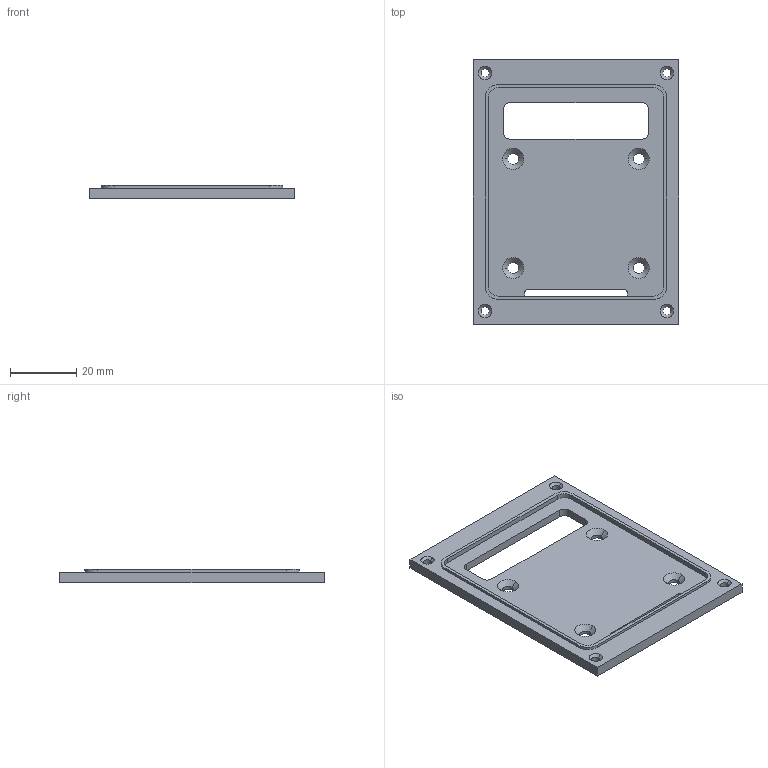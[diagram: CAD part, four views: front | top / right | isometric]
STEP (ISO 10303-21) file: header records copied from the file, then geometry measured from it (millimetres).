
FILE_DESCRIPTION (( 'STEP AP203' ), '1' );
FILE_NAME ('×Ï1.00.00.004-Ïàíåëüêà àëþìèíèåâàÿ ïîä êëàâèàòóðó.STEP', '2009-11-11T08:10:41', ( 'User' ), ( 'Microsoft Corporation' ), 'SwSTEP 2.0', 'SolidWorks 2008', '' );
FILE_SCHEMA (( 'CONFIG_CONTROL_DESIGN' ));
Length unit declared in the file: millimetre
Products named in the file (1): ×Ï1.00.00.004-Ïàíåëüêà àëþìèíèåâàÿ ïîä êëàâèàòóðó
Bounding box: 62 x 80 x 4 mm (x, y, z)
Volume: 11833.4 mm3; surface area: 10777.2 mm2
Topology: 1 solids, 1 shells, 73 faces, 192 edges, 122 vertices
Faces by surface type: cylinder 32, plane 25, cone 16
Entity records: 2379 total; most frequent: DIRECTION 420, CARTESIAN_POINT 388, ORIENTED_EDGE 384, EDGE_CURVE 192, AXIS2_PLACEMENT_3D 154, VERTEX_POINT 122, LINE 112, VECTOR 112
